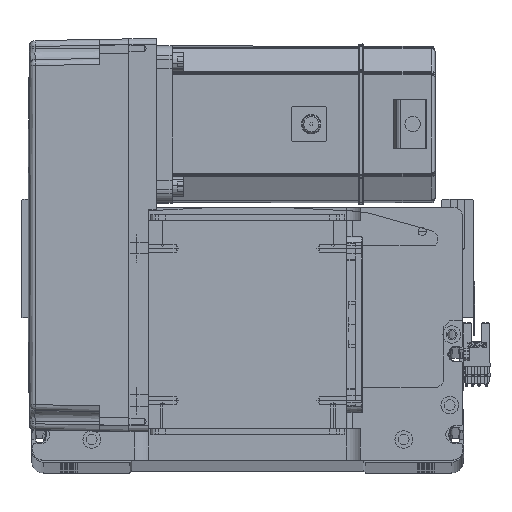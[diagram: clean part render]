
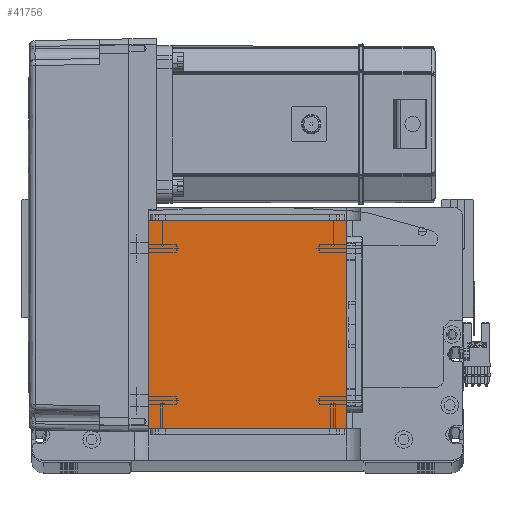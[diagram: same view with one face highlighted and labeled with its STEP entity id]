
A CAD part, top view. The second image highlights one B-rep face of the part: STEP entity #41756.
In plain terms, the highlighted planar face has unit normal (0, 0, 1).
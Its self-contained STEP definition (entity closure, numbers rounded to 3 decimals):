
#115 = FACE_OUTER_BOUND ( 'NONE', #17182, .T. ) ;
#3826 = CARTESIAN_POINT ( 'NONE',  ( 50.5, 122., 115. ) ) ;
#4364 = VECTOR ( 'NONE', #58735, 1000. ) ;
#4592 = VECTOR ( 'NONE', #28155, 1000. ) ;
#6026 = VERTEX_POINT ( 'NONE', #49660 ) ;
#8185 = VERTEX_POINT ( 'NONE', #18850 ) ;
#10841 = DIRECTION ( 'NONE',  ( 1., 0., 0. ) ) ;
#11154 = ORIENTED_EDGE ( 'NONE', *, *, #48292, .T. ) ;
#12256 = PLANE ( 'NONE',  #56978 ) ;
#16887 = DIRECTION ( 'NONE',  ( 0., 0., 1. ) ) ;
#16958 = VERTEX_POINT ( 'NONE', #3826 ) ;
#17182 = EDGE_LOOP ( 'NONE', ( #41344, #26332, #32762, #11154 ) ) ;
#17297 = DIRECTION ( 'NONE',  ( 1., 0., 0. ) ) ;
#18267 = CARTESIAN_POINT ( 'NONE',  ( -50.5, 122., 115. ) ) ;
#18850 = CARTESIAN_POINT ( 'NONE',  ( 50.5, 16., 115. ) ) ;
#19727 = CARTESIAN_POINT ( 'NONE',  ( 50.5, 122., 115. ) ) ;
#21646 = VECTOR ( 'NONE', #47679, 1000. ) ;
#26059 = EDGE_CURVE ( 'NONE', #48805, #6026, #54954, .T. ) ;
#26332 = ORIENTED_EDGE ( 'NONE', *, *, #31709, .T. ) ;
#28074 = EDGE_CURVE ( 'NONE', #8185, #16958, #58230, .T. ) ;
#28155 = DIRECTION ( 'NONE',  ( 0., -1., 0. ) ) ;
#29287 = CARTESIAN_POINT ( 'NONE',  ( -50.5, 16., 115. ) ) ;
#31296 = VECTOR ( 'NONE', #10841, 1000. ) ;
#31709 = EDGE_CURVE ( 'NONE', #6026, #8185, #43549, .T. ) ;
#31739 = LINE ( 'NONE', #54364, #4364 ) ;
#32762 = ORIENTED_EDGE ( 'NONE', *, *, #28074, .T. ) ;
#33420 = CARTESIAN_POINT ( 'NONE',  ( -50.5, 122., 115. ) ) ;
#41344 = ORIENTED_EDGE ( 'NONE', *, *, #26059, .T. ) ;
#41756 = ADVANCED_FACE ( 'NONE', ( #115 ), #12256, .T. ) ;
#43549 = LINE ( 'NONE', #29287, #31296 ) ;
#44439 = CARTESIAN_POINT ( 'NONE',  ( 0., 0., 115. ) ) ;
#47679 = DIRECTION ( 'NONE',  ( 0., 1., 0. ) ) ;
#48292 = EDGE_CURVE ( 'NONE', #16958, #48805, #31739, .T. ) ;
#48805 = VERTEX_POINT ( 'NONE', #18267 ) ;
#49660 = CARTESIAN_POINT ( 'NONE',  ( -50.5, 16., 115. ) ) ;
#54364 = CARTESIAN_POINT ( 'NONE',  ( -50.5, 122., 115. ) ) ;
#54954 = LINE ( 'NONE', #33420, #4592 ) ;
#56978 = AXIS2_PLACEMENT_3D ( 'NONE', #44439, #16887, #17297 ) ;
#58230 = LINE ( 'NONE', #19727, #21646 ) ;
#58735 = DIRECTION ( 'NONE',  ( -1., 0., 0. ) ) ;
